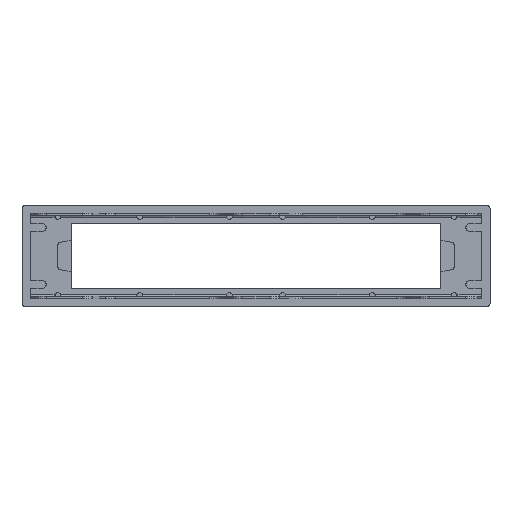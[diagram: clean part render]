
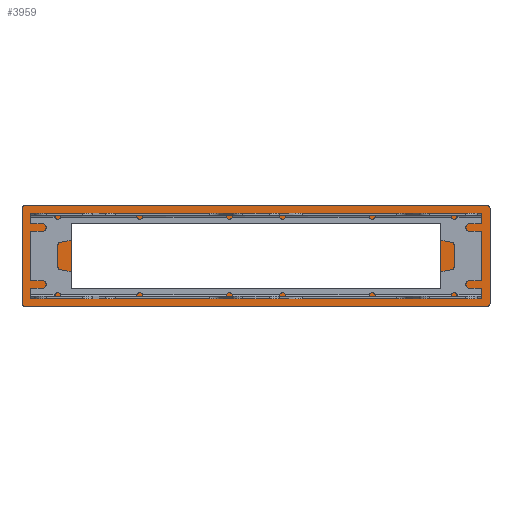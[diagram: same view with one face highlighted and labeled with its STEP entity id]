
A CAD part, top view. The second image highlights one B-rep face of the part: STEP entity #3959.
In plain terms, the highlighted planar face has unit normal (0, 0, 1) as drawn and (0, 0, -1) by its records, which use the part's own axes.
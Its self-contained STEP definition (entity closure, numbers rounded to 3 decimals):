
#119=FACE_BOUND('',#627,.T.);
#195=PLANE('',#4327);
#399=FACE_OUTER_BOUND('',#626,.T.);
#626=EDGE_LOOP('',(#3580,#3581,#3582,#3583,#3584,#3585,#3586,#3587));
#627=EDGE_LOOP('',(#3588,#3589,#3590,#3591,#3592,#3593,#3594,#3595));
#996=LINE('',#8138,#1372);
#997=LINE('',#8142,#1373);
#998=LINE('',#8146,#1374);
#999=LINE('',#8149,#1375);
#1000=LINE('',#8152,#1376);
#1001=LINE('',#8156,#1377);
#1002=LINE('',#8160,#1378);
#1003=LINE('',#8164,#1379);
#1372=VECTOR('',#5363,1000.);
#1373=VECTOR('',#5366,1000.);
#1374=VECTOR('',#5369,1000.);
#1375=VECTOR('',#5372,1000.);
#1376=VECTOR('',#5373,1000.);
#1377=VECTOR('',#5376,1000.);
#1378=VECTOR('',#5379,1000.);
#1379=VECTOR('',#5382,1000.);
#1548=CIRCLE('',#4328,2.);
#1549=CIRCLE('',#4329,2.);
#1550=CIRCLE('',#4330,2.);
#1551=CIRCLE('',#4331,2.);
#1552=CIRCLE('',#4332,0.5);
#1553=CIRCLE('',#4333,0.5);
#1554=CIRCLE('',#4334,0.5);
#1555=CIRCLE('',#4335,0.5);
#1892=VERTEX_POINT('',#8134);
#1893=VERTEX_POINT('',#8135);
#1894=VERTEX_POINT('',#8137);
#1895=VERTEX_POINT('',#8139);
#1896=VERTEX_POINT('',#8141);
#1897=VERTEX_POINT('',#8143);
#1898=VERTEX_POINT('',#8145);
#1899=VERTEX_POINT('',#8147);
#1900=VERTEX_POINT('',#8150);
#1901=VERTEX_POINT('',#8151);
#1902=VERTEX_POINT('',#8153);
#1903=VERTEX_POINT('',#8155);
#1904=VERTEX_POINT('',#8157);
#1905=VERTEX_POINT('',#8159);
#1906=VERTEX_POINT('',#8161);
#1907=VERTEX_POINT('',#8163);
#2460=EDGE_CURVE('',#1892,#1893,#1548,.T.);
#2461=EDGE_CURVE('',#1894,#1892,#996,.T.);
#2462=EDGE_CURVE('',#1895,#1894,#1549,.T.);
#2463=EDGE_CURVE('',#1896,#1895,#997,.T.);
#2464=EDGE_CURVE('',#1897,#1896,#1550,.T.);
#2465=EDGE_CURVE('',#1898,#1897,#998,.T.);
#2466=EDGE_CURVE('',#1899,#1898,#1551,.T.);
#2467=EDGE_CURVE('',#1893,#1899,#999,.T.);
#2468=EDGE_CURVE('',#1900,#1901,#1000,.T.);
#2469=EDGE_CURVE('',#1901,#1902,#1552,.T.);
#2470=EDGE_CURVE('',#1902,#1903,#1001,.T.);
#2471=EDGE_CURVE('',#1903,#1904,#1553,.T.);
#2472=EDGE_CURVE('',#1904,#1905,#1002,.T.);
#2473=EDGE_CURVE('',#1905,#1906,#1554,.T.);
#2474=EDGE_CURVE('',#1906,#1907,#1003,.T.);
#2475=EDGE_CURVE('',#1907,#1900,#1555,.T.);
#3580=ORIENTED_EDGE('',*,*,#2460,.F.);
#3581=ORIENTED_EDGE('',*,*,#2461,.F.);
#3582=ORIENTED_EDGE('',*,*,#2462,.F.);
#3583=ORIENTED_EDGE('',*,*,#2463,.F.);
#3584=ORIENTED_EDGE('',*,*,#2464,.F.);
#3585=ORIENTED_EDGE('',*,*,#2465,.F.);
#3586=ORIENTED_EDGE('',*,*,#2466,.F.);
#3587=ORIENTED_EDGE('',*,*,#2467,.F.);
#3588=ORIENTED_EDGE('',*,*,#2468,.T.);
#3589=ORIENTED_EDGE('',*,*,#2469,.T.);
#3590=ORIENTED_EDGE('',*,*,#2470,.T.);
#3591=ORIENTED_EDGE('',*,*,#2471,.T.);
#3592=ORIENTED_EDGE('',*,*,#2472,.T.);
#3593=ORIENTED_EDGE('',*,*,#2473,.T.);
#3594=ORIENTED_EDGE('',*,*,#2474,.T.);
#3595=ORIENTED_EDGE('',*,*,#2475,.T.);
#3959=ADVANCED_FACE('',(#399,#119),#195,.T.);
#4327=AXIS2_PLACEMENT_3D('',#8133,#5359,#5360);
#4328=AXIS2_PLACEMENT_3D('',#8136,#5361,#5362);
#4329=AXIS2_PLACEMENT_3D('',#8140,#5364,#5365);
#4330=AXIS2_PLACEMENT_3D('',#8144,#5367,#5368);
#4331=AXIS2_PLACEMENT_3D('',#8148,#5370,#5371);
#4332=AXIS2_PLACEMENT_3D('',#8154,#5374,#5375);
#4333=AXIS2_PLACEMENT_3D('',#8158,#5377,#5378);
#4334=AXIS2_PLACEMENT_3D('',#8162,#5380,#5381);
#4335=AXIS2_PLACEMENT_3D('',#8165,#5383,#5384);
#5359=DIRECTION('center_axis',(0.,0.,-1.));
#5360=DIRECTION('ref_axis',(-1.,0.,0.));
#5361=DIRECTION('center_axis',(0.,0.,1.));
#5362=DIRECTION('ref_axis',(-1.,0.,0.));
#5363=DIRECTION('',(0.,1.,0.));
#5364=DIRECTION('center_axis',(0.,0.,1.));
#5365=DIRECTION('ref_axis',(1.,0.,0.));
#5366=DIRECTION('',(1.,0.,0.));
#5367=DIRECTION('center_axis',(0.,0.,1.));
#5368=DIRECTION('ref_axis',(-1.,0.,0.));
#5369=DIRECTION('',(0.,-1.,0.));
#5370=DIRECTION('center_axis',(0.,0.,1.));
#5371=DIRECTION('ref_axis',(-1.,0.,0.));
#5372=DIRECTION('',(-1.,0.,0.));
#5373=DIRECTION('',(0.,1.,0.));
#5374=DIRECTION('center_axis',(0.,0.,1.));
#5375=DIRECTION('ref_axis',(1.,0.,0.));
#5376=DIRECTION('',(-1.,0.,0.));
#5377=DIRECTION('center_axis',(0.,0.,1.));
#5378=DIRECTION('ref_axis',(1.,0.,0.));
#5379=DIRECTION('',(0.,-1.,0.));
#5380=DIRECTION('center_axis',(0.,0.,1.));
#5381=DIRECTION('ref_axis',(-1.,0.,0.));
#5382=DIRECTION('',(1.,0.,0.));
#5383=DIRECTION('center_axis',(0.,0.,1.));
#5384=DIRECTION('ref_axis',(1.,0.,0.));
#8133=CARTESIAN_POINT('Origin',(148.,30.5,0.));
#8134=CARTESIAN_POINT('',(150.,30.5,0.));
#8135=CARTESIAN_POINT('',(148.,32.5,0.));
#8136=CARTESIAN_POINT('Origin',(148.,30.5,0.));
#8137=CARTESIAN_POINT('',(150.,-30.5,0.));
#8138=CARTESIAN_POINT('',(150.,-30.5,0.));
#8139=CARTESIAN_POINT('',(148.,-32.5,0.));
#8140=CARTESIAN_POINT('Origin',(148.,-30.5,0.));
#8141=CARTESIAN_POINT('',(-148.,-32.5,0.));
#8142=CARTESIAN_POINT('',(-148.,-32.5,0.));
#8143=CARTESIAN_POINT('',(-150.,-30.5,0.));
#8144=CARTESIAN_POINT('Origin',(-148.,-30.5,0.));
#8145=CARTESIAN_POINT('',(-150.,30.5,0.));
#8146=CARTESIAN_POINT('',(-150.,-30.5,0.));
#8147=CARTESIAN_POINT('',(-148.,32.5,0.));
#8148=CARTESIAN_POINT('Origin',(-148.,30.5,0.));
#8149=CARTESIAN_POINT('',(-148.,32.5,0.));
#8150=CARTESIAN_POINT('',(118.5,-21.95,0.));
#8151=CARTESIAN_POINT('',(118.5,21.95,0.));
#8152=CARTESIAN_POINT('',(118.5,-21.95,0.));
#8153=CARTESIAN_POINT('',(118.,22.45,0.));
#8154=CARTESIAN_POINT('Origin',(118.,21.95,0.));
#8155=CARTESIAN_POINT('',(-118.,22.45,0.));
#8156=CARTESIAN_POINT('',(118.,22.45,0.));
#8157=CARTESIAN_POINT('',(-118.5,21.95,0.));
#8158=CARTESIAN_POINT('Origin',(-118.,21.95,0.));
#8159=CARTESIAN_POINT('',(-118.5,-21.95,0.));
#8160=CARTESIAN_POINT('',(-118.5,-21.95,0.));
#8161=CARTESIAN_POINT('',(-118.,-22.45,0.));
#8162=CARTESIAN_POINT('Origin',(-118.,-21.95,0.));
#8163=CARTESIAN_POINT('',(118.,-22.45,0.));
#8164=CARTESIAN_POINT('',(118.,-22.45,0.));
#8165=CARTESIAN_POINT('Origin',(118.,-21.95,0.));
